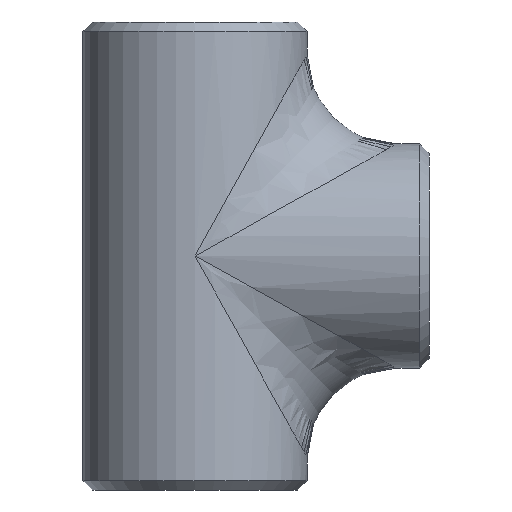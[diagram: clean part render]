
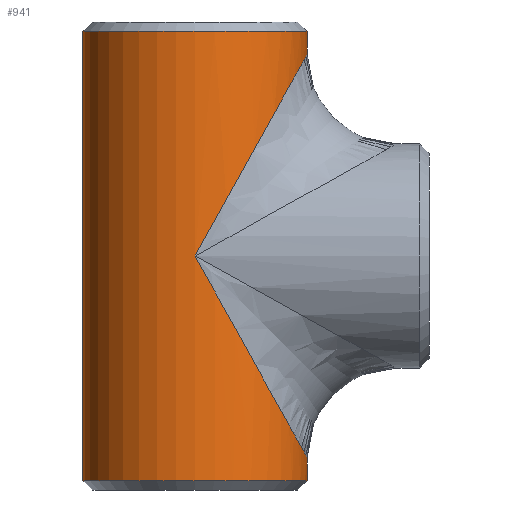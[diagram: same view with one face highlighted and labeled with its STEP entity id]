
A CAD part, front view. The second image highlights one B-rep face of the part: STEP entity #941.
In plain terms, the highlighted cylindrical face has radius 36.5 mm (diameter 73 mm), a partial arc.
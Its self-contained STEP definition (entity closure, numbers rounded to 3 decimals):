
#18 = CARTESIAN_POINT ( 'NONE',  ( 36.5, 0., 65.7 ) ) ;
#23 = CARTESIAN_POINT ( 'NONE',  ( -36.5, 0., -73.16 ) ) ;
#40 = CYLINDRICAL_SURFACE ( 'NONE', #1094, 36.5 ) ;
#57 =( BOUNDED_CURVE ( )  B_SPLINE_CURVE ( 3, ( #874, #1203, #249, #759 ),
 .UNSPECIFIED., .F., .F. ) 
 B_SPLINE_CURVE_WITH_KNOTS ( ( 4, 4 ),
 ( 1.571, 3.142 ),
 .UNSPECIFIED. ) 
 CURVE ( )  GEOMETRIC_REPRESENTATION_ITEM ( )  RATIONAL_B_SPLINE_CURVE ( ( 1., 0.805, 0.805, 1. ) ) 
 REPRESENTATION_ITEM ( '' )  );
#61 = ORIENTED_EDGE ( 'NONE', *, *, #523, .F. ) ;
#77 = EDGE_CURVE ( 'NONE', #116, #247, #521, .T. ) ;
#97 = EDGE_CURVE ( 'NONE', #282, #886, #1255, .T. ) ;
#109 = ORIENTED_EDGE ( 'NONE', *, *, #248, .F. ) ;
#116 = VERTEX_POINT ( 'NONE', #299 ) ;
#226 = CARTESIAN_POINT ( 'NONE',  ( 36.5, 0., -73.16 ) ) ;
#247 = VERTEX_POINT ( 'NONE', #673 ) ;
#248 = EDGE_CURVE ( 'NONE', #282, #819, #438, .T. ) ;
#249 = CARTESIAN_POINT ( 'NONE',  ( 36.5, -21.381, 65.7 ) ) ;
#282 = VERTEX_POINT ( 'NONE', #1302 ) ;
#299 = CARTESIAN_POINT ( 'NONE',  ( 36.5, 0., 73.16 ) ) ;
#312 = LINE ( 'NONE', #730, #686 ) ;
#331 = DIRECTION ( 'NONE',  ( -1., 0., 0. ) ) ;
#354 = EDGE_LOOP ( 'NONE', ( #61, #1378, #1186, #1039, #109, #1072, #966 ) ) ;
#392 = CARTESIAN_POINT ( 'NONE',  ( 36.5, 0., -65.7 ) ) ;
#401 = CIRCLE ( 'NONE', #1276, 36.5 ) ;
#438 = LINE ( 'NONE', #560, #1246 ) ;
#441 = DIRECTION ( 'NONE',  ( 0., 0., -1. ) ) ;
#456 = DIRECTION ( 'NONE',  ( 1., 0., 0. ) ) ;
#461 = FACE_OUTER_BOUND ( 'NONE', #354, .T. ) ;
#491 = VECTOR ( 'NONE', #1224, 1000. ) ;
#520 = VERTEX_POINT ( 'NONE', #18 ) ;
#521 = CIRCLE ( 'NONE', #1310, 36.5 ) ;
#523 = EDGE_CURVE ( 'NONE', #116, #520, #312, .T. ) ;
#554 = DIRECTION ( 'NONE',  ( 0., 0., -1. ) ) ;
#560 = CARTESIAN_POINT ( 'NONE',  ( 36.5, 0., 76.2 ) ) ;
#624 = DIRECTION ( 'NONE',  ( 0., 0., -1. ) ) ;
#668 = CARTESIAN_POINT ( 'NONE',  ( 0., -36.5, 0. ) ) ;
#673 = CARTESIAN_POINT ( 'NONE',  ( -36.5, 0., 73.16 ) ) ;
#686 = VECTOR ( 'NONE', #837, 1000. ) ;
#716 = EDGE_CURVE ( 'NONE', #903, #819, #401, .T. ) ;
#730 = CARTESIAN_POINT ( 'NONE',  ( 36.5, 0., 76.2 ) ) ;
#759 = CARTESIAN_POINT ( 'NONE',  ( 36.5, 0., 65.7 ) ) ;
#805 = LINE ( 'NONE', #910, #491 ) ;
#819 = VERTEX_POINT ( 'NONE', #226 ) ;
#837 = DIRECTION ( 'NONE',  ( 0., 0., -1. ) ) ;
#845 = CARTESIAN_POINT ( 'NONE',  ( 0., -36.5, 0. ) ) ;
#874 = CARTESIAN_POINT ( 'NONE',  ( 0., -36.5, 0. ) ) ;
#886 = VERTEX_POINT ( 'NONE', #668 ) ;
#897 = EDGE_CURVE ( 'NONE', #886, #520, #57, .T. ) ;
#903 = VERTEX_POINT ( 'NONE', #23 ) ;
#910 = CARTESIAN_POINT ( 'NONE',  ( -36.5, 0., 76.2 ) ) ;
#941 = ADVANCED_FACE ( 'NONE', ( #461 ), #40, .T. ) ;
#948 = CARTESIAN_POINT ( 'NONE',  ( 36.5, -21.381, -65.7 ) ) ;
#966 = ORIENTED_EDGE ( 'NONE', *, *, #897, .T. ) ;
#977 = CARTESIAN_POINT ( 'NONE',  ( 0., 0., 76.2 ) ) ;
#991 = DIRECTION ( 'NONE',  ( 0., 0., 1. ) ) ;
#1039 = ORIENTED_EDGE ( 'NONE', *, *, #716, .T. ) ;
#1050 = DIRECTION ( 'NONE',  ( 1., 0., 0. ) ) ;
#1072 = ORIENTED_EDGE ( 'NONE', *, *, #97, .T. ) ;
#1094 = AXIS2_PLACEMENT_3D ( 'NONE', #977, #441, #331 ) ;
#1104 = CARTESIAN_POINT ( 'NONE',  ( 0., 0., -73.16 ) ) ;
#1129 = EDGE_CURVE ( 'NONE', #247, #903, #805, .T. ) ;
#1186 = ORIENTED_EDGE ( 'NONE', *, *, #1129, .T. ) ;
#1203 = CARTESIAN_POINT ( 'NONE',  ( 21.381, -36.5, 38.486 ) ) ;
#1224 = DIRECTION ( 'NONE',  ( 0., 0., -1. ) ) ;
#1246 = VECTOR ( 'NONE', #554, 1000. ) ;
#1251 = CARTESIAN_POINT ( 'NONE',  ( 21.381, -36.5, -38.486 ) ) ;
#1255 =( BOUNDED_CURVE ( )  B_SPLINE_CURVE ( 3, ( #392, #948, #1251, #845 ),
 .UNSPECIFIED., .F., .F. ) 
 B_SPLINE_CURVE_WITH_KNOTS ( ( 4, 4 ),
 ( 3.142, 4.712 ),
 .UNSPECIFIED. ) 
 CURVE ( )  GEOMETRIC_REPRESENTATION_ITEM ( )  RATIONAL_B_SPLINE_CURVE ( ( 1., 0.805, 0.805, 1. ) ) 
 REPRESENTATION_ITEM ( '' )  );
#1265 = CARTESIAN_POINT ( 'NONE',  ( 0., 0., 73.16 ) ) ;
#1276 = AXIS2_PLACEMENT_3D ( 'NONE', #1104, #991, #456 ) ;
#1302 = CARTESIAN_POINT ( 'NONE',  ( 36.5, 0., -65.7 ) ) ;
#1310 = AXIS2_PLACEMENT_3D ( 'NONE', #1265, #624, #1050 ) ;
#1378 = ORIENTED_EDGE ( 'NONE', *, *, #77, .T. ) ;
